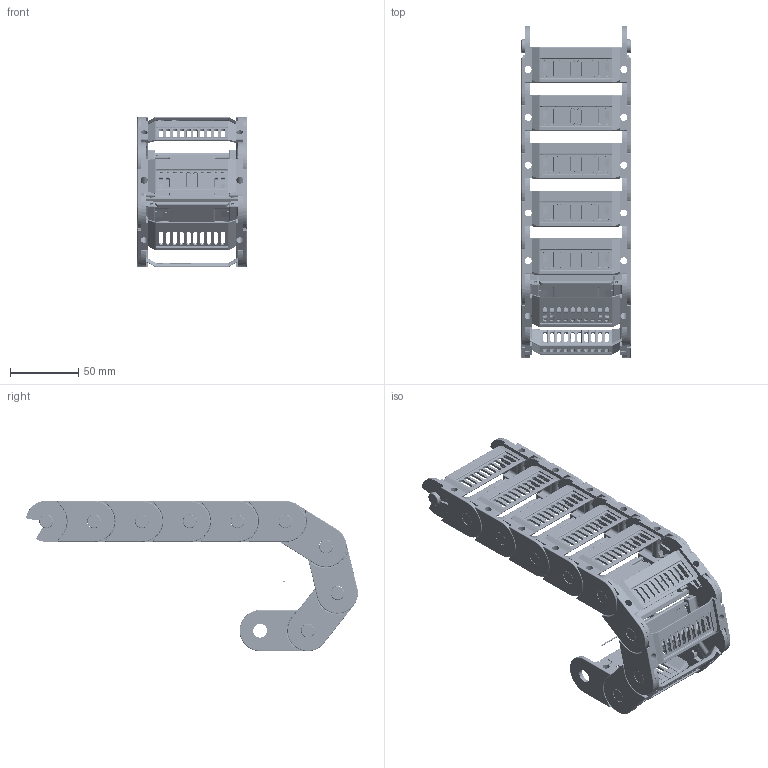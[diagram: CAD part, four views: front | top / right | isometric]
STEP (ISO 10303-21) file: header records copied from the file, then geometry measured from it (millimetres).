
FILE_DESCRIPTION((''),'2;1');
FILE_NAME('C:\Uebbing\PARAMETERKETTEN\KOLIBRI\Kol_30_080_0\KOLIBRI 30_080_0_R40.stp','2012-03-05T10:09:24',('Uebbing'),(''),'Autodesk Inventor 10','Autodesk Inventor 10','');
FILE_SCHEMA(('AUTOMOTIVE_DESIGN { 1 0 10303 214 1 1 1 1 }'));
Length unit declared in the file: millimetre
Products named in the file (5): KOLIBRI 30_080_0_PARAMETRISCH; Achse; Kol_30_080_0 Glied; Kol 30_080_0 Lasche; Kol 30_080_0 Klappsteg
Assembly tree (12 placements, depth 3):
  KOLIBRI 30_080_0_PARAMETRISCH
    Achse
    Kol_30_080_0 Glied  x9
      Kol 30_080_0 Lasche
      Kol 30_080_0 Klappsteg
Bounding box: 80 x 242.78 x 110 mm (x, y, z)
Volume: 166008.5 mm3; surface area: 153625.2 mm2
Topology: 19 solids, 19 shells, 9111 faces, 24853 edges, 16023 vertices
Faces by surface type: bspline 3627, plane 3557, cylinder 1459, torus 351, cone 90, sphere 27
Full cylindrical faces by diameter (mm): 1 x1, 1.166 x9, 2.048 x9, 2.8 x54, 5.1 x9, 10 x9, 10.1 x9
Entity records: 38619 total; most frequent: CARTESIAN_POINT 14473, ORIENTED_EDGE 5468, DIRECTION 4251, EDGE_CURVE 2734, VERTEX_POINT 1781, VECTOR 1623, LINE 1623, AXIS2_PLACEMENT_3D 1314
